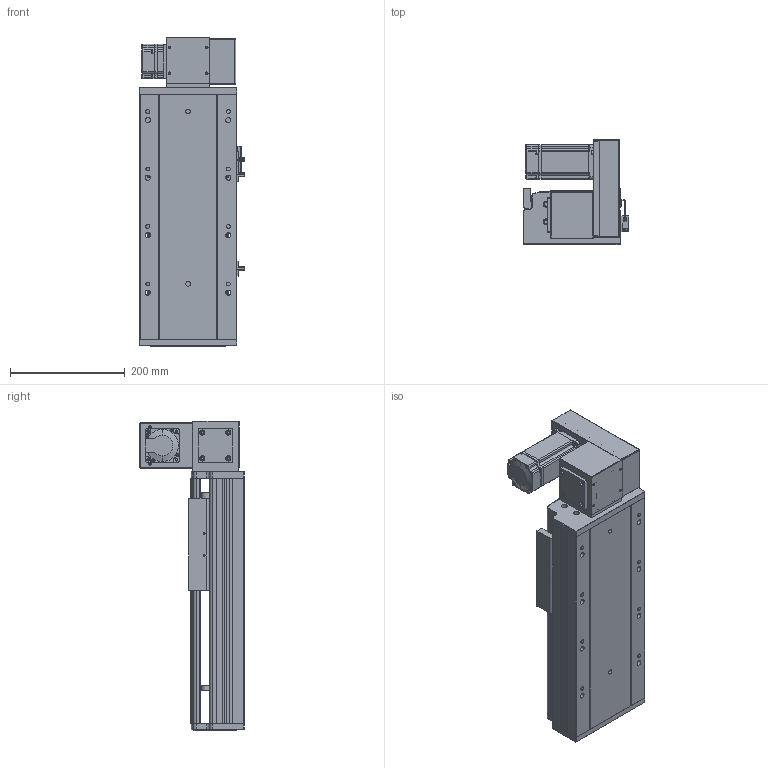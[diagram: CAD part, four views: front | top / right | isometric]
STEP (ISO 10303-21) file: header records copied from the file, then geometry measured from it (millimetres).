
FILE_DESCRIPTION (( 'STEP AP203' ), '1' );
FILE_NAME ('RY170-T-300-UR-P400W.SLDASM_150.step', '2021-03-01T09:26:39', ( '盈信电脑' ), ( '东莞市道滘镇水果街19号' ), 'SwSTEP 2.0', 'SolidWorks 2012', '' );
FILE_SCHEMA (( 'CONFIG_CONTROL_DESIGN' ));
Products named in the file (18): RY170-T-300-UR-P400W.SLDASM_150; 15; RY170-T肮祭謫裔啣; 滅袉蝶18-10; RY120-T主同步轮轴承压盖; RY170-T蹟翐M4; RY170肮祭謫萇儂欶; RY170-T肮祭湍揤踡輸1; RY170同步轮电机安装板(400W); RY170-T肮祭湍揤踡輸2; RY170肮祭謫ヶ裔啣; RY170外置感应片(200共用）; RY170翋肮祭謫釱; RY170肮祭湍臏賑輸; RY170綴裔啣; RY170-T-300肮祭謫倰第裔啣-DR_150; 覜茼ん672; RY170-T-300肮祭謫倰第菁釱-DR_150
Assembly tree (22 placements, depth 2):
  RY170-T-300-UR-P400W.SLDASM_150
    RY170-T-300肮祭謫倰第菁釱-DR_150
    RY170肮祭湍臏賑輸
    RY170-T-300肮祭謫倰第裔啣-DR_150
    RY170綴裔啣
    覜茼ん672  x3
    RY170外置感应片(200共用）
    RY170肮祭謫ヶ裔啣
    RY170翋肮祭謫釱
    RY170同步轮电机安装板(400W)
    RY170肮祭謫萇儂欶
    RY170-T肮祭湍揤踡輸1  x2
    RY170-T肮祭湍揤踡輸2  x2
    RY120-T主同步轮轴承压盖
    RY170-T肮祭謫裔啣
    RY170-T蹟翐M4
    滅袉蝶18-10  x2
    15
Bounding box: 183.7 x 182 x 538 mm (x, y, z)
Volume: 3372922 mm3; surface area: 1089842.5 mm2
Topology: 22 solids, 22 shells, 2540 faces, 6970 edges, 4505 vertices
Faces by surface type: plane 1254, cylinder 1076, cone 180, bspline 30
Entity records: 73896 total; most frequent: CARTESIAN_POINT 15659, ORIENTED_EDGE 11760, DIRECTION 11712, EDGE_CURVE 5880, AXIS2_PLACEMENT_3D 4068, VERTEX_POINT 3861, VECTOR 3576, LINE 3576
